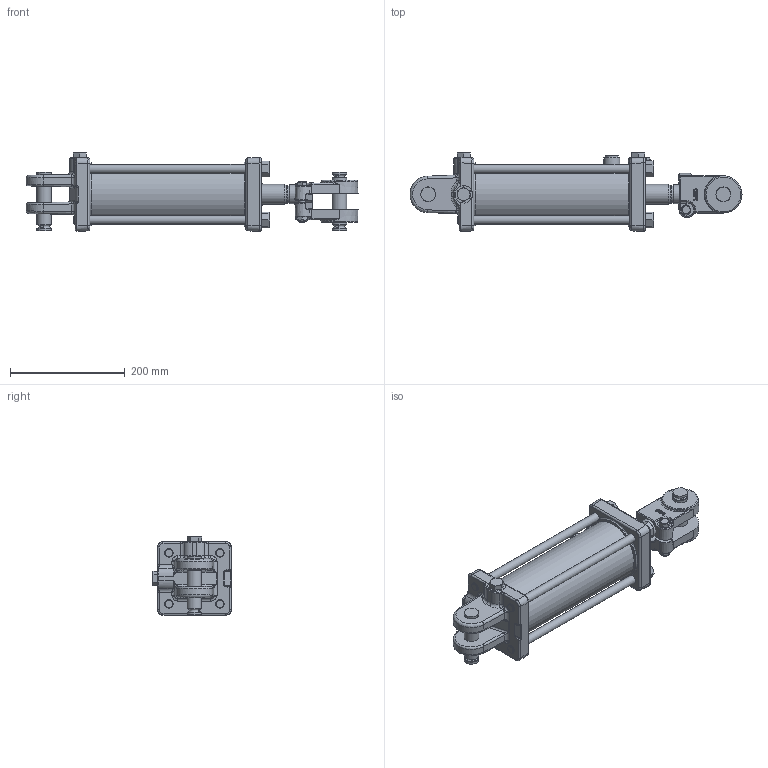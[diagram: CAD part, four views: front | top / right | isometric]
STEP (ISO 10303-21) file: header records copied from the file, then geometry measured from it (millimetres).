
FILE_DESCRIPTION((''),'2;1');
FILE_NAME('\\SRVR-ENG\EngSales\PMS-AM-2556A.stp','2012-10-01T13:32:24',('KneiflD'),(''),'Autodesk Inventor 2012','Autodesk Inventor 2012','');
FILE_SCHEMA(('AUTOMOTIVE_DESIGN { 1 0 10303 214 1 1 1 1 }'));
Length unit declared in the file: inch
Products named in the file (21): PMS-AM-2556A; 061800021; 051800032; 200300181V; 141800009V; 081800022V; 081800021V; 210700077V; 010700696; 100000577V; 100000576V; 170002105; 220000223; 071800032V; 220000210; 200300104V; 200300040V; 190400004V; 170301133; 220000107V
Assembly tree (26 placements, depth 3):
  PMS-AM-2556A
    061800021
      051800032
      200300181V
    141800009V
    081800022V
      081800021V
      210700077V
    010700696
    100000577V
      100000576V
      170002105
      220000223
    071800032V
    220000210
    200300104V
    200300040V  x3
    190400004V  x2
    170301133  x4
      170301133
      220000107V
Bounding box: 578.55 x 137.02 x 137.02 mm (x, y, z)
Volume: 2676318.3 mm3; surface area: 558101.7 mm2
Topology: 25 solids, 25 shells, 1037 faces, 2314 edges, 1327 vertices
Faces by surface type: cylinder 284, bspline 255, plane 247, cone 169, torus 47, sphere 35
Full cylindrical faces by diameter (mm): 1.575 x1, 2.769 x1, 5.156 x2, 5.159 x2, 7.938 x3, 9.144 x1, 11.113 x2, 11.906 x2, 14.351 x4, 14.529 x4, 14.834 x4, 16.272 x4, 16.764 x3, 17.066 x3, 17.501 x4, 19.05 x4, 22.352 x1, 23.444 x1, 25.349 x1, 25.4 x6, 25.476 x1, 25.781 x4, 28.575 x1, 30.556 x1, 33.147 x1, 34.9 x2, 34.925 x2, 35.077 x1, 37.363 x1, 38.882 x1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
Entity records: 34190 total; most frequent: CARTESIAN_POINT 15910, ORIENTED_EDGE 3630, DIRECTION 3465, EDGE_CURVE 1815, AXIS2_PLACEMENT_3D 1496, VERTEX_POINT 1115, EDGE_LOOP 1094, FACE_OUTER_BOUND 884
